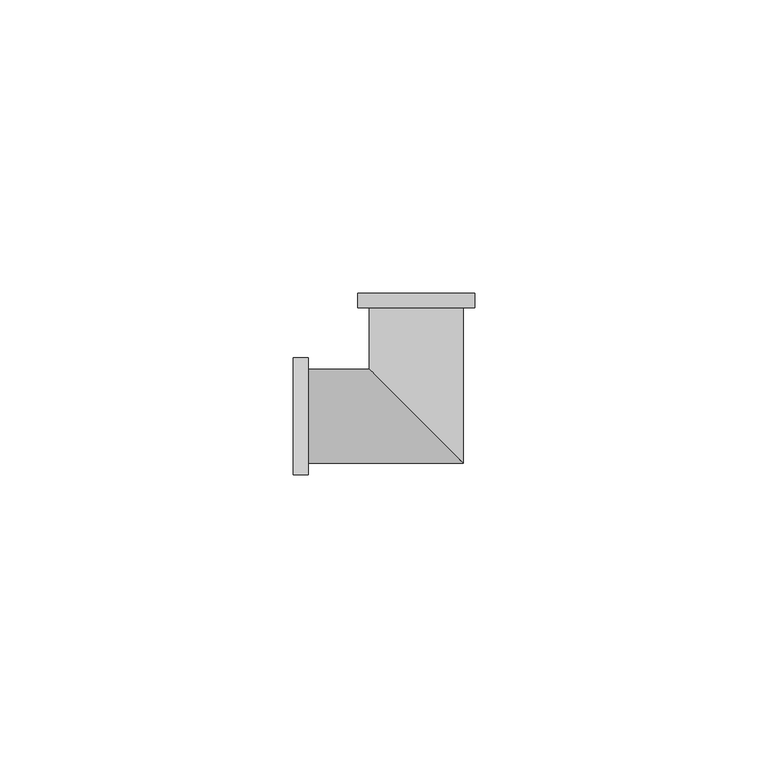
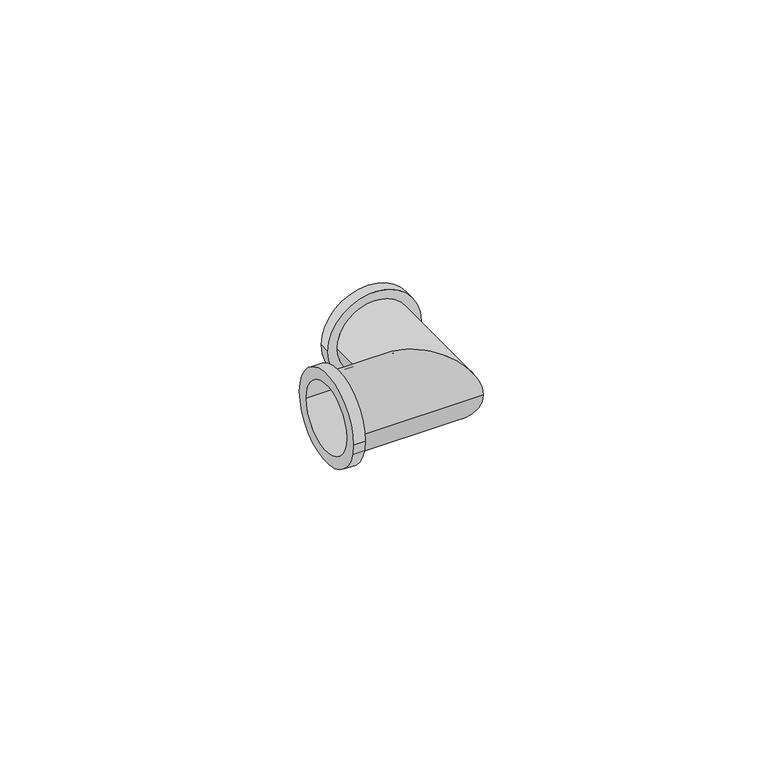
"""IFC4 building model written with IfcOpenShell, lengths in millimetres: pipe fitting geometry, БИР ПЕКС_НПР_Угольник ПЕКС 90 : Угольник ПЕКС 90°."""

from ifc_helpers import new_model, si_unit, frame, origin, place, context, project, spatial, polyline, circle_curve, ellipse_curve, source, transform, mapped, element, save
from ifc_brep_helpers import plane_surface, cylinder_surface, revolved_surface, advanced_brep


def pipe_fitting_2862e8f8(model_context):
    return source(origin(), model_context, "Body", "AdvancedBrep", [
        advanced_brep(
        [(-21.0, -10.0, 0.0), (-21.0, 10.0, 0.0), (-21.0, -7.5, 0.0), (-21.0, 7.5, 0.0), (8.0, -8.0, 0.0), (-8.0, 8.0, 0.0), (-18.4507177, 8.0, 0.0), (-18.4507177, -8.0, 0.0), (-10.0, 21.0, 0.0), (10.0, 21.0, 0.0), (7.5, 21.0, 0.0), (-7.5, 21.0, 0.0), (8.0, 18.5, 0.0), (-8.0, 18.5, 0.0), (-18.4507177, -10.0, 0.0), (-18.4507177, 10.0, 0.0), (-10.0, 18.5, 0.0), (10.0, 18.5, 0.0), (-18.4507177, -7.5, 0.0), (7.5, -7.5, 0.0), (-7.5, 7.5, 0.0), (-18.4507177, 7.5, 0.0), (-7.5, 18.5, 0.0), (7.5, 18.5, 0.0)],
        [
            (0, 1, circle_curve(frame((-21.0, 0.0, 0.0), z_axis=(-1.0, 0.0, 0.0), x_axis=(0.0, 1.0, 0.0)), 10.0)),
            (1, 0, circle_curve(frame((-21.0, 0.0, 0.0), z_axis=(-1.0, 0.0, 0.0), x_axis=(0.0, 1.0, 0.0)), 10.0)),
            (2, 3, circle_curve(frame((-21.0, 0.0, 0.0), z_axis=(1.0, 0.0, 0.0), x_axis=(0.0, 1.0, 0.0)), 7.5)),
            (3, 2, circle_curve(frame((-21.0, 0.0, 0.0), z_axis=(1.0, 0.0, 0.0), x_axis=(0.0, 1.0, 0.0)), 7.5)),
            (4, 5, ellipse_curve(frame((0.0, 0.0, 0.0), z_axis=(-0.7071067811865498, -0.7071067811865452, 0.0), x_axis=(-0.7071067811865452, 0.7071067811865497, 0.0)), 11.3137085, 8.0)),
            (5, 6),
            (6, 7, circle_curve(frame((-18.4507177, 0.0, 0.0), z_axis=(1.0, 0.0, 0.0), x_axis=(0.0, 1.0, 0.0)), 8.0)),
            (7, 4),
            (5, 4, ellipse_curve(frame((0.0, 0.0, 0.0), z_axis=(-0.7071067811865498, -0.7071067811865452, 0.0), x_axis=(-0.7071067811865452, 0.7071067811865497, 0.0)), 11.3137085, 8.0)),
            (7, 6, circle_curve(frame((-18.4507177, 0.0, 0.0), z_axis=(1.0, 0.0, 0.0), x_axis=(0.0, 1.0, 0.0)), 8.0)),
            (8, 9, circle_curve(frame((0.0, 21.0, 0.0), z_axis=(0.0, 1.0, 0.0), x_axis=(1.0, 0.0, 0.0)), 10.0)),
            (9, 8, circle_curve(frame((0.0, 21.0, 0.0), z_axis=(0.0, 1.0, 0.0), x_axis=(1.0, 0.0, 0.0)), 10.0)),
            (10, 11, circle_curve(frame((0.0, 21.0, 0.0), z_axis=(0.0, -1.0, 0.0), x_axis=(-1.0, 0.0, 0.0)), 7.5)),
            (11, 10, circle_curve(frame((0.0, 21.0, 0.0), z_axis=(0.0, -1.0, 0.0), x_axis=(-1.0, 0.0, 0.0)), 7.5)),
            (4, 12),
            (12, 13, circle_curve(frame((0.0, 18.5, 0.0), z_axis=(0.0, -1.0, 0.0), x_axis=(-1.0, 0.0, 0.0)), 8.0)),
            (13, 5),
            (13, 12, circle_curve(frame((0.0, 18.5, 0.0), z_axis=(0.0, -1.0, 0.0), x_axis=(-1.0, 0.0, 0.0)), 8.0)),
            (14, 15, circle_curve(frame((-18.4507177, 0.0, 0.0), z_axis=(1.0, 0.0, 0.0), x_axis=(0.0, 1.0, 0.0)), 10.0)),
            (15, 14, circle_curve(frame((-18.4507177, 0.0, 0.0), z_axis=(1.0, 0.0, 0.0), x_axis=(0.0, 1.0, 0.0)), 10.0)),
            (14, 0),
            (1, 15),
            (16, 17, circle_curve(frame((0.0, 18.5, 0.0), z_axis=(0.0, -1.0, 0.0), x_axis=(1.0, 0.0, 0.0)), 10.0)),
            (17, 16, circle_curve(frame((0.0, 18.5, 0.0), z_axis=(0.0, -1.0, 0.0), x_axis=(1.0, 0.0, 0.0)), 10.0)),
            (16, 8),
            (9, 17),
            (2, 18),
            (18, 19),
            (19, 20, ellipse_curve(frame((0.0, 0.0, 0.0), z_axis=(0.7071067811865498, 0.7071067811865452, 0.0), x_axis=(0.7071067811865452, -0.7071067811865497, 0.0)), 10.6066017, 7.5)),
            (20, 21),
            (21, 3),
            (20, 19, ellipse_curve(frame((0.0, 0.0, 0.0), z_axis=(0.7071067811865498, 0.7071067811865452, 0.0), x_axis=(0.7071067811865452, -0.7071067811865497, 0.0)), 10.6066017, 7.5)),
            (11, 22),
            (22, 20),
            (19, 23),
            (23, 10),
        ],
        [
            plane_surface(frame((-21.0, 0.0, 0.0), z_axis=(-1.0, 0.0, 0.0), x_axis=(0.0, 0.0, 1.0))),
            cylinder_surface(frame((-21.0, 0.0, 0.0), z_axis=(-1.0, 0.0, 0.0), x_axis=(0.0, 1.0, 0.0)), 8.0),
            plane_surface(frame((0.0, 21.0, 0.0), z_axis=(0.0, 1.0, 0.0), x_axis=(0.0, 0.0, 1.0))),
            cylinder_surface(frame((0.0, 0.0, 0.0), z_axis=(0.0, -1.0, 0.0), x_axis=(-1.0, 0.0, 0.0)), 8.0),
            plane_surface(frame((-18.4507177, 10.0, 0.0), z_axis=(1.0, 0.0, 0.0), x_axis=(0.0, 0.0, 1.0))),
            cylinder_surface(frame((-21.0, 0.0, 0.0), z_axis=(1.0, 0.0, 0.0), x_axis=(0.0, 1.0, 0.0)), 10.0),
            plane_surface(frame((10.0, 18.5, 0.0), z_axis=(0.0, -1.0, 0.0), x_axis=(0.0, 0.0, 1.0))),
            cylinder_surface(frame((0.0, 21.0, 0.0), z_axis=(0.0, -1.0, 0.0), x_axis=(1.0, 0.0, 0.0)), 10.0),
            revolved_surface(polyline([(7.5, 7.5, 0.0), (-21.0, 7.5, 0.0)]), (-21.0, 0.0, 0.0), (1.0, 0.0, 0.0)),
            revolved_surface(polyline([(-7.5, 21.0, 0.0), (-7.5, -7.5, 0.0)]), (0.0, 0.0, 0.0), (0.0, 1.0, 0.0)),
        ],
        [
            (0, [[1, 2], [3, 4]]),
            (1, [[5, 6, 7, 8]]),
            (1, [[9, -8, 10, -6]]),
            (2, [[11, 12], [13, 14]]),
            (3, [[-5, 15, 16, 17]]),
            (3, [[-9, -17, 18, -15]]),
            (4, [[19, 20], [-7, -10]]),
            (5, [[-19, 21, -2, 22]]),
            (5, [[-20, -22, -1, -21]]),
            (6, [[23, 24], [-16, -18]]),
            (7, [[-23, 25, -12, 26]]),
            (7, [[-24, -26, -11, -25]]),
            (8, [[-3, 27, 28, 29, 30, 31]]),
            (8, [[-4, -31, -30, 32, -28, -27]]),
            (9, [[-14, 33, 34, -29, 35, 36]]),
            (9, [[-13, -36, -35, -32, -34, -33]]),
        ],
    ),
    ])


if __name__ == "__main__":
    model = new_model("IFC4")
    model_context = context("Model", 3, world=origin())
    ifc_project = project(units=[si_unit("LENGTHUNIT", "METRE", prefix="MILLI")], contexts=[model_context])
    site = spatial("IfcSite", under=ifc_project)
    building = spatial("IfcBuilding", under=site)
    placement = place(None, origin())
    pipe_fitting_shape = pipe_fitting_2862e8f8(model_context)
    element("IfcPipeFitting", 1, ObjectType="БИР ПЕКС_НПР_Угольник ПЕКС 90 : Угольник ПЕКС 90°", at=placement, inside=building, context=model_context, shape_type="MappedRepresentation", body=[
        mapped(pipe_fitting_shape, transform((0.0, 0.0, 0.0), x_axis=(1.0, 0.0, 0.0), y_axis=(0.0, 1.0, 0.0), z_axis=(0.0, 0.0, 1.0))),
    ])
    save(model, "model.ifc")
